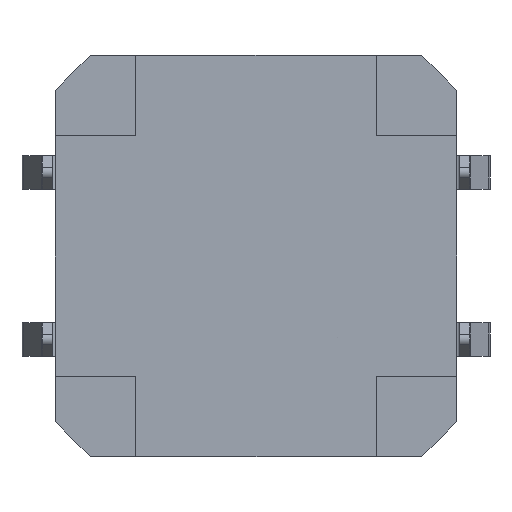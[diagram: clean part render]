
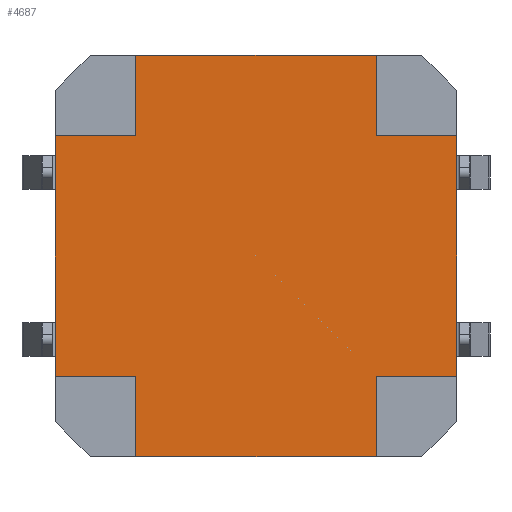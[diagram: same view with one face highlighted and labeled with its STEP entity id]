
A CAD part, front view. The second image highlights one B-rep face of the part: STEP entity #4687.
In plain terms, the highlighted planar face has unit normal (0, -1, 0).
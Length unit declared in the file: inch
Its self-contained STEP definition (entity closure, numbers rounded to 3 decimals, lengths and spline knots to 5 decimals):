
#9 = LINE ( 'NONE', #4323, #3959 ) ;
#132 = VECTOR ( 'NONE', #4178, 39.37008 ) ;
#148 = DIRECTION ( 'NONE',  ( 1., 0., 0. ) ) ;
#175 = EDGE_CURVE ( 'NONE', #2524, #5503, #4628, .T. ) ;
#185 = VERTEX_POINT ( 'NONE', #1208 ) ;
#190 = LINE ( 'NONE', #580, #5264 ) ;
#199 = ORIENTED_EDGE ( 'NONE', *, *, #3998, .F. ) ;
#224 = EDGE_CURVE ( 'NONE', #2503, #5333, #9, .T. ) ;
#256 = EDGE_CURVE ( 'NONE', #3147, #4985, #4291, .T. ) ;
#273 = DIRECTION ( 'NONE',  ( -1., 0., 0. ) ) ;
#281 = ORIENTED_EDGE ( 'NONE', *, *, #3615, .F. ) ;
#298 = ORIENTED_EDGE ( 'NONE', *, *, #643, .F. ) ;
#305 = AXIS2_PLACEMENT_3D ( 'NONE', #5416, #3296, #4928 ) ;
#327 = VECTOR ( 'NONE', #4250, 39.37008 ) ;
#334 = FACE_OUTER_BOUND ( 'NONE', #3912, .T. ) ;
#344 = CARTESIAN_POINT ( 'NONE',  ( -0.14173, 0., -0.14173 ) ) ;
#389 = VECTOR ( 'NONE', #1531, 39.37008 ) ;
#580 = CARTESIAN_POINT ( 'NONE',  ( 0.23622, 0., -0.14173 ) ) ;
#643 = EDGE_CURVE ( 'NONE', #5333, #3147, #887, .T. ) ;
#782 = LINE ( 'NONE', #5422, #389 ) ;
#846 = CARTESIAN_POINT ( 'NONE',  ( 0.23622, 0., 0.19528 ) ) ;
#887 = LINE ( 'NONE', #2969, #327 ) ;
#1031 = VERTEX_POINT ( 'NONE', #1808 ) ;
#1182 = CARTESIAN_POINT ( 'NONE',  ( 0.14173, 0., 0.14173 ) ) ;
#1208 = CARTESIAN_POINT ( 'NONE',  ( 0.14173, 0., -0.23622 ) ) ;
#1309 = DIRECTION ( 'NONE',  ( -1., 0., 0. ) ) ;
#1325 = CARTESIAN_POINT ( 'NONE',  ( -0.14173, 0., -0.23622 ) ) ;
#1412 = ORIENTED_EDGE ( 'NONE', *, *, #256, .F. ) ;
#1504 = ORIENTED_EDGE ( 'NONE', *, *, #3634, .F. ) ;
#1523 = PLANE ( 'NONE',  #305 ) ;
#1531 = DIRECTION ( 'NONE',  ( 1., 0., 0. ) ) ;
#1585 = VECTOR ( 'NONE', #3728, 39.37008 ) ;
#1586 = LINE ( 'NONE', #3693, #5457 ) ;
#1605 = ORIENTED_EDGE ( 'NONE', *, *, #3244, .F. ) ;
#1659 = DIRECTION ( 'NONE',  ( 0., 0., -1. ) ) ;
#1791 = DIRECTION ( 'NONE',  ( 0., 0., 1. ) ) ;
#1808 = CARTESIAN_POINT ( 'NONE',  ( -0.23622, 0., 0.14173 ) ) ;
#1841 = VECTOR ( 'NONE', #5135, 39.37008 ) ;
#1858 = VERTEX_POINT ( 'NONE', #3666 ) ;
#2036 = VERTEX_POINT ( 'NONE', #2447 ) ;
#2363 = CARTESIAN_POINT ( 'NONE',  ( 0.23622, 0., -0.14173 ) ) ;
#2447 = CARTESIAN_POINT ( 'NONE',  ( 0.23622, 0., 0.14173 ) ) ;
#2492 = LINE ( 'NONE', #4211, #132 ) ;
#2503 = VERTEX_POINT ( 'NONE', #2546 ) ;
#2524 = VERTEX_POINT ( 'NONE', #1325 ) ;
#2546 = CARTESIAN_POINT ( 'NONE',  ( -0.14173, 0., 0.14173 ) ) ;
#2589 = CARTESIAN_POINT ( 'NONE',  ( -0.19528, 0., -0.23622 ) ) ;
#2616 = LINE ( 'NONE', #2589, #4833 ) ;
#2691 = VECTOR ( 'NONE', #148, 39.37008 ) ;
#2766 = VERTEX_POINT ( 'NONE', #4087 ) ;
#2928 = CARTESIAN_POINT ( 'NONE',  ( -0.14173, 0., -0.14173 ) ) ;
#2969 = CARTESIAN_POINT ( 'NONE',  ( -0.19528, 0., 0.23622 ) ) ;
#3023 = ORIENTED_EDGE ( 'NONE', *, *, #3992, .F. ) ;
#3060 = CARTESIAN_POINT ( 'NONE',  ( -0.23622, 0., 0.14173 ) ) ;
#3125 = ORIENTED_EDGE ( 'NONE', *, *, #3280, .F. ) ;
#3147 = VERTEX_POINT ( 'NONE', #5418 ) ;
#3244 = EDGE_CURVE ( 'NONE', #1858, #1031, #1586, .T. ) ;
#3280 = EDGE_CURVE ( 'NONE', #5503, #1858, #4812, .T. ) ;
#3296 = DIRECTION ( 'NONE',  ( 0., -1., 0. ) ) ;
#3399 = CARTESIAN_POINT ( 'NONE',  ( 0.14173, 0., 0.14173 ) ) ;
#3477 = EDGE_CURVE ( 'NONE', #5329, #2766, #190, .T. ) ;
#3493 = CARTESIAN_POINT ( 'NONE',  ( -0.23622, 0., -0.14173 ) ) ;
#3568 = VECTOR ( 'NONE', #1309, 39.37008 ) ;
#3615 = EDGE_CURVE ( 'NONE', #1031, #2503, #4362, .T. ) ;
#3634 = EDGE_CURVE ( 'NONE', #185, #2524, #2616, .T. ) ;
#3666 = CARTESIAN_POINT ( 'NONE',  ( -0.23622, 0., -0.14173 ) ) ;
#3693 = CARTESIAN_POINT ( 'NONE',  ( -0.23622, 0., 0.19528 ) ) ;
#3728 = DIRECTION ( 'NONE',  ( 0., 0., 1. ) ) ;
#3730 = ORIENTED_EDGE ( 'NONE', *, *, #224, .F. ) ;
#3912 = EDGE_LOOP ( 'NONE', ( #3125, #5389, #1504, #3023, #4309, #199, #4077, #1412, #298, #3730, #281, #1605 ) ) ;
#3959 = VECTOR ( 'NONE', #1791, 39.37008 ) ;
#3992 = EDGE_CURVE ( 'NONE', #2766, #185, #2492, .T. ) ;
#3998 = EDGE_CURVE ( 'NONE', #2036, #5329, #4663, .T. ) ;
#4077 = ORIENTED_EDGE ( 'NONE', *, *, #4172, .F. ) ;
#4087 = CARTESIAN_POINT ( 'NONE',  ( 0.14173, 0., -0.14173 ) ) ;
#4172 = EDGE_CURVE ( 'NONE', #4985, #2036, #782, .T. ) ;
#4178 = DIRECTION ( 'NONE',  ( 0., 0., -1. ) ) ;
#4188 = DIRECTION ( 'NONE',  ( 0., 0., 1. ) ) ;
#4211 = CARTESIAN_POINT ( 'NONE',  ( 0.14173, 0., -0.14173 ) ) ;
#4250 = DIRECTION ( 'NONE',  ( 1., 0., 0. ) ) ;
#4291 = LINE ( 'NONE', #3399, #1841 ) ;
#4309 = ORIENTED_EDGE ( 'NONE', *, *, #3477, .F. ) ;
#4323 = CARTESIAN_POINT ( 'NONE',  ( -0.14173, 0., 0.14173 ) ) ;
#4362 = LINE ( 'NONE', #3060, #2691 ) ;
#4494 = CARTESIAN_POINT ( 'NONE',  ( -0.14173, 0., 0.23622 ) ) ;
#4628 = LINE ( 'NONE', #344, #1585 ) ;
#4663 = LINE ( 'NONE', #846, #5100 ) ;
#4687 = ADVANCED_FACE ( 'NONE', ( #334 ), #1523, .T. ) ;
#4812 = LINE ( 'NONE', #3493, #3568 ) ;
#4833 = VECTOR ( 'NONE', #5150, 39.37008 ) ;
#4928 = DIRECTION ( 'NONE',  ( 0., 0., -1. ) ) ;
#4985 = VERTEX_POINT ( 'NONE', #1182 ) ;
#5100 = VECTOR ( 'NONE', #1659, 39.37008 ) ;
#5135 = DIRECTION ( 'NONE',  ( 0., 0., -1. ) ) ;
#5150 = DIRECTION ( 'NONE',  ( -1., 0., 0. ) ) ;
#5264 = VECTOR ( 'NONE', #273, 39.37008 ) ;
#5329 = VERTEX_POINT ( 'NONE', #2363 ) ;
#5333 = VERTEX_POINT ( 'NONE', #4494 ) ;
#5389 = ORIENTED_EDGE ( 'NONE', *, *, #175, .F. ) ;
#5416 = CARTESIAN_POINT ( 'NONE',  ( 0., 0., 0. ) ) ;
#5418 = CARTESIAN_POINT ( 'NONE',  ( 0.14173, 0., 0.23622 ) ) ;
#5422 = CARTESIAN_POINT ( 'NONE',  ( 0.23622, 0., 0.14173 ) ) ;
#5457 = VECTOR ( 'NONE', #4188, 39.37008 ) ;
#5503 = VERTEX_POINT ( 'NONE', #2928 ) ;
